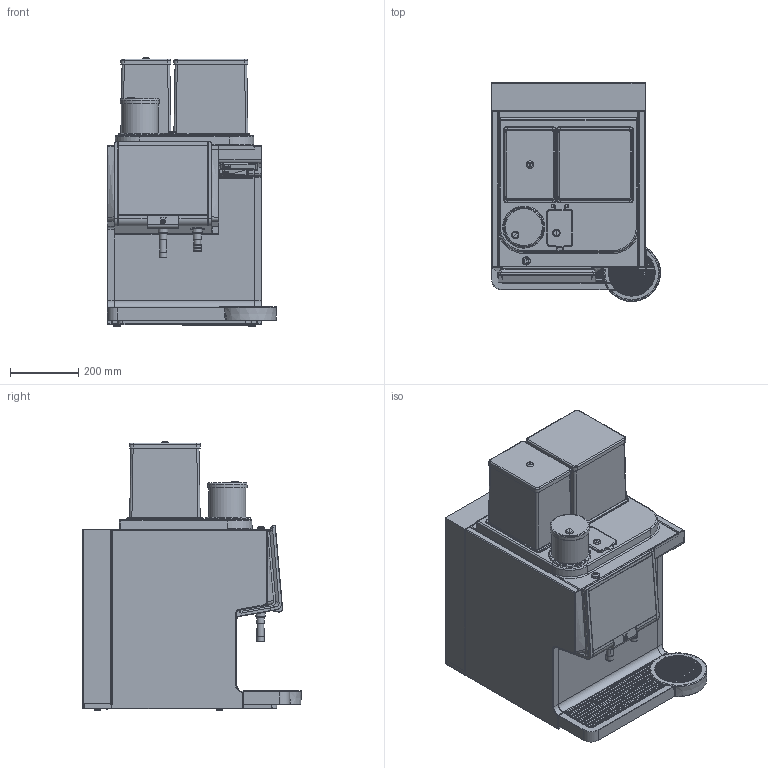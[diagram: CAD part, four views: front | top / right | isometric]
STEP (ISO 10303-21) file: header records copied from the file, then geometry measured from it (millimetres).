
FILE_DESCRIPTION(/* description */ (''),/* implementation_level */ '2;1');
FILE_NAME(/* name */ 'D:\Projekte\WMF\9000F\vb_tse\9000F_VB_TSE_3D.stp',/* time_stamp */ '2019-09-17T02:20:45+02:00',/* author */ ('AM'),/* organization */ (''),/* preprocessor_version */ 'ST-DEVELOPER v17',/* originating_system */ 'Autodesk Inventor 2018',/* authorisation */ '');
FILE_SCHEMA (('AUTOMOTIVE_DESIGN { 1 0 10303 214 3 1 1 }'));
Products named in the file (3): 9000F_VB_TSE_3d; 9000F_VB_3D; 9000F_TSE_3D
Assembly tree (2 placements, depth 2):
  9000F_VB_TSE_3d
    9000F_VB_3D
    9000F_TSE_3D
Bounding box: 494.38 x 639.38 x 786.7 mm (x, y, z)
Volume: 138497703.6 mm3; surface area: 2472514.4 mm2
Topology: 3 solids, 3 shells, 2633 faces, 6785 edges, 4331 vertices
Faces by surface type: plane 1234, cylinder 861, bspline 221, cone 147, torus 142, sphere 28
Full cylindrical faces by diameter (mm): 2.46 x2, 3 x29, 3.2 x2, 6 x1, 6.7 x2, 7 x1, 10 x1, 12 x1, 13 x1, 13.2 x1, 14.1 x1, 15 x1, 17 x6, 18 x2, 18.7 x1, 19.9 x1, 20 x3, 22 x4, 22.8 x4, 23.2 x1, 24.3 x1, 27 x2, 38 x1, 108 x1
Entity records: 90785 total; most frequent: CARTESIAN_POINT 26242, ORIENTED_EDGE 13550, DIRECTION 13325, EDGE_CURVE 6775, AXIS2_PLACEMENT_3D 4813, VERTEX_POINT 4343, LINE 3699, VECTOR 3699
